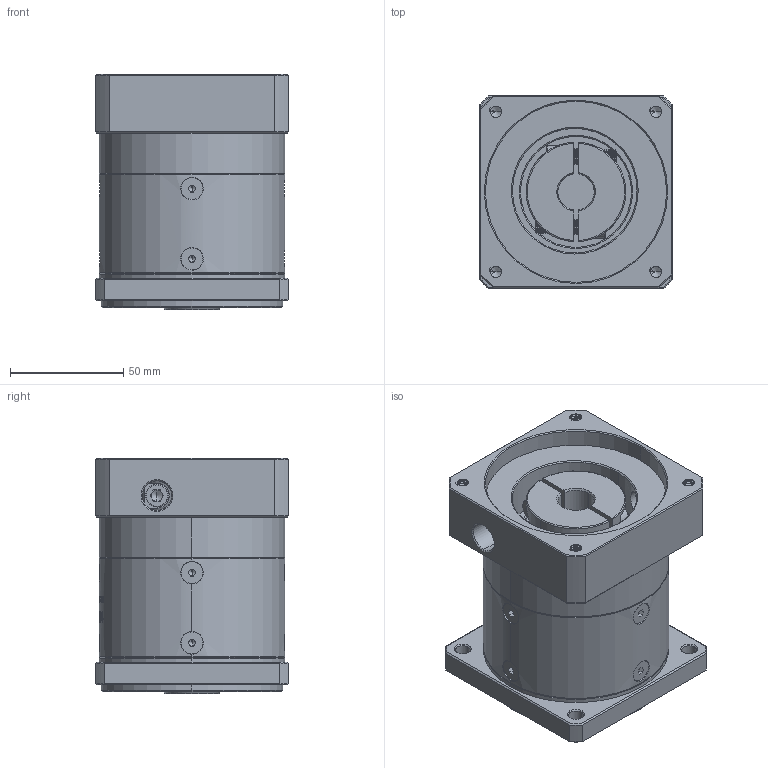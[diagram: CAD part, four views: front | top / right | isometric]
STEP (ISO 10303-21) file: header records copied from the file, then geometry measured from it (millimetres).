
FILE_DESCRIPTION (( 'STEP AP214' ), '1' );
FILE_NAME ('ZF80-K15-L1-16-80-100-M6.step', '2022-09-16T05:24:36', ( '' ), ( 'Microsoft' ), 'SwSTEP 2.0', 'SolidWorks 2016', '' );
FILE_SCHEMA (( 'AUTOMOTIVE_DESIGN' ));
Length unit declared in the file: millimetre
Products named in the file (1): ZF80-K15-L1-16-80-100-M6
Bounding box: 85 x 85 x 104 mm (x, y, z)
Volume: 519432.5 mm3; surface area: 87435.8 mm2
Topology: 13 solids, 13 shells, 1929 faces, 4995 edges, 3159 vertices
Faces by surface type: plane 889, cylinder 381, cone 332, bspline 310, torus 17
Entity records: 101517 total; most frequent: CARTESIAN_POINT 36629, ORIENTED_EDGE 9934, DIRECTION 7872, EDGE_CURVE 4967, VERTEX_POINT 3159, LINE 2718, VECTOR 2718, AXIS2_PLACEMENT_3D 2577
